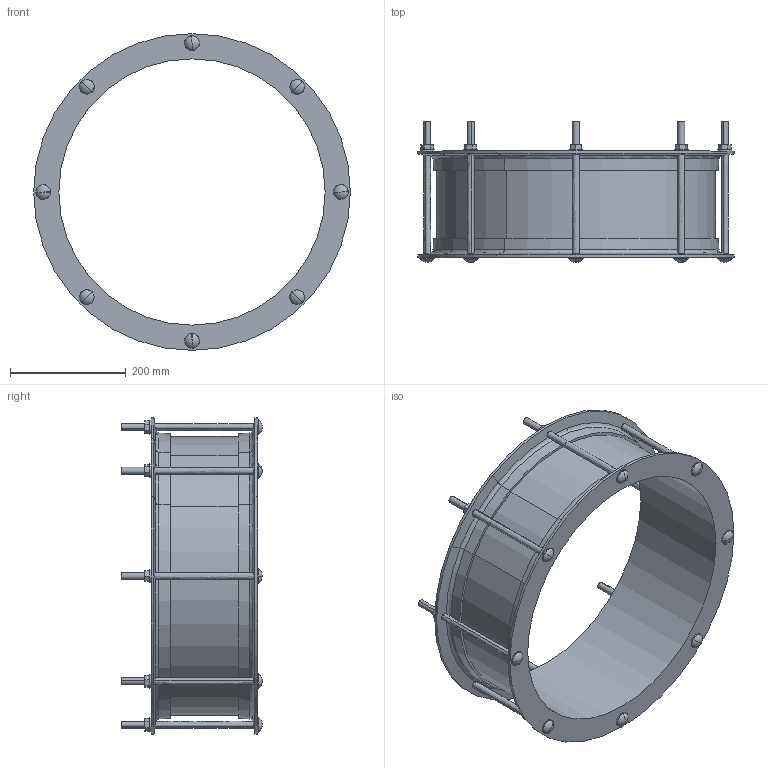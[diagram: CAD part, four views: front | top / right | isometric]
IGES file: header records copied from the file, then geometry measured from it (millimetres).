
Start section:  PTC IGES file: VJC_457.igs
Global section: file name: VJC_457.igs; native system: Creo Parametric by PTC Inc.; preprocessor: 2016130; author: mfairey; organization: Unknown; date: 20181206.093521; units: millimetre
Bounding box: 547.7 x 243.33 x 547.7 mm (x, y, z)
Surface area: 842985.7 mm2 (no closed solid volume)
Topology: 0 solids, 0 shells, 176 faces, 912 edges, 896 vertices
Faces by surface type: revolution 100, bspline 76
